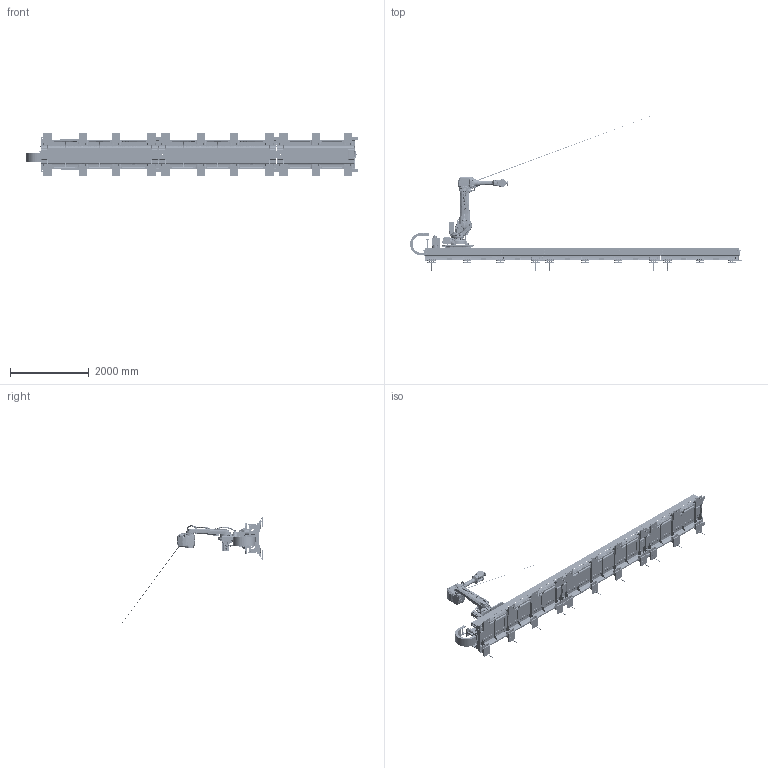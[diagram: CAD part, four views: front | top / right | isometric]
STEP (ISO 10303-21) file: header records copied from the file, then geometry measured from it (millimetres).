
FILE_DESCRIPTION(('CATIA V5 STEP Exchange','CAx-IF Rec.Pracs.--- Model Styling and Organization---1.5--- 2016-08-15','CAx-IF Rec.Pracs.---Supplemental Geometry---1.0---2011-11-01','CAx-IF Rec.Pracs.--- Composite Materials ---1.1---2010-07-15'),'2;1');
FILE_NAME('G:\4月\2025-4-8-SCT3000-4个长度数模-2025-4-9\SCT3000-拖链中置-8M\SY2025-4-9-SCT3000-8M.stp','2025-04-14T08:46:13+00:00',('none'),('none'),'CATIA Version 5-6 Release 2020','CATIA V5 STEP AP214 v1','none');
FILE_SCHEMA(('AUTOMOTIVE_DESIGN { 1 0 10303 214 1 1 1 1 }'));
Products named in the file (173): SY2025-4-9-SCT3000-8M; SY2025-4-8-01; SY2025-3-27-00; Copy (1) of Copy (1) of SG2210-B-03.; Copy (1) of 地脚连接板_1; Copy (1) of 1_1; Copy (1) of Copy (1) of Copy (1) of 9地脚总装2#110909_1; 9地脚new11EC0152#15175; 9JB╱ZQ 4763-2006[膨胀螺栓M16／140]EC0152#1_M16／14016564; Copy (1) of 2M16-60（93-97）EC0152#3819_1_1; 2GB╱T 70.1-2008[内六角圆柱头螺钉M16×60]EC0152#3_M16×606981.5_2; 2GB╱T 93-1987[标准型弹性垫圈(装配)16]EC0152#3_166498_2; 2GB╱T 97.1-2002[平垫圈 A级16]EC0152#3_1612612_2; Copy (1) of 2M16-60（93-97）EC0152#3819_1_2; Copy (1) of 2_1; Copy (1) of Copy (2) of Copy (1) of 9地脚总装2#110909_1; 2025-2-20-02; SG2210-B-01..1; Copy (1) of 地脚连接板_3_1; Copy (1) of 1_3_1; Copy (1) of Copy (1) of Copy (1) of 9地脚总装2#110909_3_1; 9地脚new11EC0152#15175_1; 9JB╱ZQ 4763-2006[膨胀螺栓M16／140]EC0152#1_M16／14016564_1; Copy (1) of 2M16-60（93-97）EC0152#3819_1_5_1; 2GB╱T 70.1-2008[内六角圆柱头螺钉M16×60]EC0152#3_M16×606981.5_2_1; 2GB╱T 93-1987[标准型弹性垫圈(装配)16]EC0152#3_166498_2_1; 2GB╱T 97.1-2002[平垫圈 A级16]EC0152#3_1612612_2_1; 2GB╱T 70.1-2008[内六角圆柱头螺钉M16×60]EC0152#3_M16×606981.5_2_2; Copy (1) of 2M16-60（93-97）EC0152#3819_1_6_1; 2GB╱T 70.1-2008[内六角圆柱头螺钉M16×60]EC0152#3_M16×606981.5_2_3; 2GB╱T 93-1987[标准型弹性垫圈(装配)16]EC0152#3_166498_2_2; 2GB╱T 97.1-2002[平垫圈 A级16]EC0152#3_1612612_2_2; Copy (1) of 2_3_1; Copy (1) of Copy (2) of Copy (1) of 9地脚总装2#110909_3_1; 9JB╱ZQ 4763-2006[膨胀螺栓M16／140]EC0152#1_M16／14016564_2; 9地脚new11EC0152#15175_2; Copy (1) of 地脚连接板_3_2; Copy (1) of 1_3_2; Copy (1) of Copy (1) of Copy (1) of 9地脚总装2#110909_3_2; 9地脚new11EC0152#15175_3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
Assembly tree (265 placements, depth 7):
  SY2025-4-9-SCT3000-8M
    SY2025-4-8-01
      SY2025-3-27-00  x2
        Copy (1) of Copy (1) of SG2210-B-03.
        Copy (1) of 地脚连接板_1
          Copy (1) of 1_1
            Copy (1) of Copy (1) of Copy (1) of 9地脚总装2#110909_1
              9地脚new11EC0152#15175
              9JB╱ZQ 4763-2006[膨胀螺栓M16／140]EC0152#1_M16／14016564
            Copy (1) of 2M16-60（93-97）EC0152#3819_1_1
              2GB╱T 70.1-2008[内六角圆柱头螺钉M16×60]EC0152#3_M16×606981.5_2
              2GB╱T 93-1987[标准型弹性垫圈(装配)16]EC0152#3_166498_2
              2GB╱T 97.1-2002[平垫圈 A级16]EC0152#3_1612612_2
            2GB╱T 70.1-2008[内六角圆柱头螺钉M16×60]EC0152#3_M16×606981.5_2
            Copy (1) of 2M16-60（93-97）EC0152#3819_1_2
              2GB╱T 70.1-2008[内六角圆柱头螺钉M16×60]EC0152#3_M16×606981.5_2
              2GB╱T 93-1987[标准型弹性垫圈(装配)16]EC0152#3_166498_2
              2GB╱T 97.1-2002[平垫圈 A级16]EC0152#3_1612612_2
          Copy (1) of 2_1
            Copy (1) of Copy (2) of Copy (1) of 9地脚总装2#110909_1
              9JB╱ZQ 4763-2006[膨胀螺栓M16／140]EC0152#1_M16／14016564
              9地脚new11EC0152#15175
      2025-2-20-02
        SG2210-B-01..1
        Copy (1) of 地脚连接板_3_1
          Copy (1) of 1_3_1
            Copy (1) of Copy (1) of Copy (1) of 9地脚总装2#110909_3_1
              9地脚new11EC0152#15175_1
              9JB╱ZQ 4763-2006[膨胀螺栓M16／140]EC0152#1_M16／14016564_1
            Copy (1) of 2M16-60（93-97）EC0152#3819_1_5_1
              2GB╱T 70.1-2008[内六角圆柱头螺钉M16×60]EC0152#3_M16×606981.5_2_1
              2GB╱T 93-1987[标准型弹性垫圈(装配)16]EC0152#3_166498_2_1
              2GB╱T 97.1-2002[平垫圈 A级16]EC0152#3_1612612_2_1
            2GB╱T 70.1-2008[内六角圆柱头螺钉M16×60]EC0152#3_M16×606981.5_2_2
            Copy (1) of 2M16-60（93-97）EC0152#3819_1_6_1
              2GB╱T 70.1-2008[内六角圆柱头螺钉M16×60]EC0152#3_M16×606981.5_2_3
              2GB╱T 93-1987[标准型弹性垫圈(装配)16]EC0152#3_166498_2_2
              2GB╱T 97.1-2002[平垫圈 A级16]EC0152#3_1612612_2_2
          Copy (1) of 2_3_1
            Copy (1) of Copy (2) of Copy (1) of 9地脚总装2#110909_3_1
              9JB╱ZQ 4763-2006[膨胀螺栓M16／140]EC0152#1_M16／14016564_2
              9地脚new11EC0152#15175_2
        Copy (1) of 地脚连接板_3_2
          Copy (1) of 1_3_2
            Copy (1) of Copy (1) of Copy (1) of 9地脚总装2#110909_3_2
              9地脚new11EC0152#15175_3
              9JB╱ZQ 4763-2006[膨胀螺栓M16／140]EC0152#1_M16／14016564_3
            Copy (1) of 2M16-60（93-97）EC0152#3819_1_5_2
              2GB╱T 70.1-2008[内六角圆柱头螺钉M16×60]EC0152#3_M16×606981.5_2_4
              2GB╱T 93-1987[标准型弹性垫圈(装配)16]EC0152#3_166498_2_3
              2GB╱T 97.1-2002[平垫圈 A级16]EC0152#3_1612612_2_3
            2GB╱T 70.1-2008[内六角圆柱头螺钉M16×60]EC0152#3_M16×606981.5_2_5
            Copy (1) of 2M16-60（93-97）EC0152#3819_1_6_2
              2GB╱T 70.1-2008[内六角圆柱头螺钉M16×60]EC0152#3_M16×606981.5_2_6
              2GB╱T 93-1987[标准型弹性垫圈(装配)16]EC0152#3_166498_2_4
              2GB╱T 97.1-2002[平垫圈 A级16]EC0152#3_1612612_2_4
          Copy (1) of 2_3_2
            Copy (1) of Copy (2) of Copy (1) of 9地脚总装2#110909_3_2
              9JB╱ZQ 4763-2006[膨胀螺栓M16／140]EC0152#1_M16／14016564_4
              9地脚new11EC0152#15175_4
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Bounding box: 8441.66 x 4019.8 x 3018.65 mm (x, y, z)
Volume: 437202756.1 mm3; surface area: 57215987.1 mm2
Topology: 327 solids, 2258 shells, 32007 faces, 95735 edges, 66448 vertices
Faces by surface type: plane 14111, cylinder 8702, cone 5828, bspline 2173, torus 826, extrusion 238, sphere 129
Entity records: 758300 total; most frequent: CARTESIAN_POINT 324510, ORIENTED_EDGE 96889, DIRECTION 55713, EDGE_CURVE 55392, VERTEX_POINT 41191, AXIS2_PLACEMENT_3D 23121, VECTOR 22479, LINE 22354
